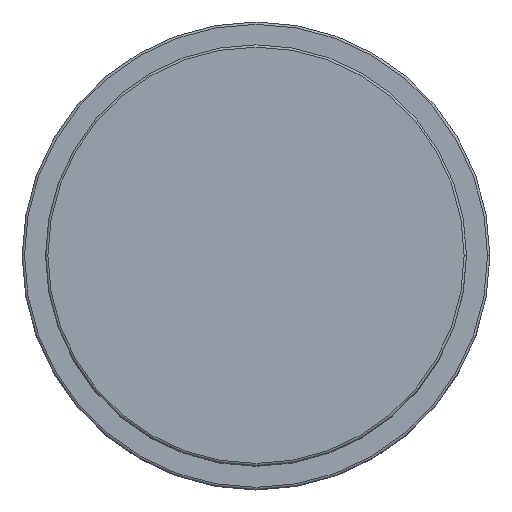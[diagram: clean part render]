
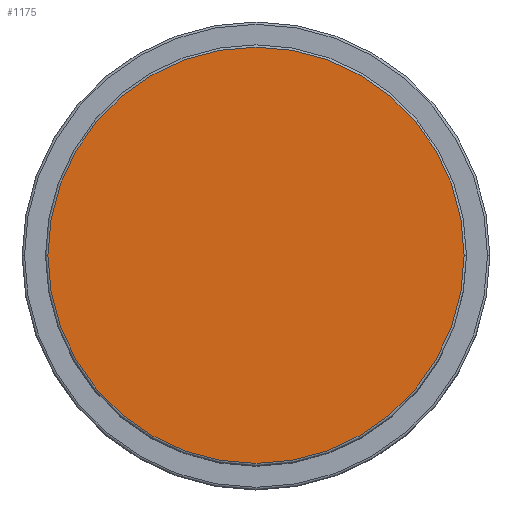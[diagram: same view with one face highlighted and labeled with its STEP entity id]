
A CAD part, top view. The second image highlights one B-rep face of the part: STEP entity #1175.
In plain terms, the highlighted planar face has unit normal (0, 0, 1).
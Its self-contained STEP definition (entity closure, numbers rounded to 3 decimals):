
#51 = DIRECTION ( 'NONE',  ( 0., 0., 1. ) ) ;
#533 = CARTESIAN_POINT ( 'NONE',  ( -44.5, 0., 87. ) ) ;
#696 = DIRECTION ( 'NONE',  ( 0., 0., 1. ) ) ;
#745 = VERTEX_POINT ( 'NONE', #533 ) ;
#1175 = ADVANCED_FACE ( 'NONE', ( #1646 ), #3408, .T. ) ;
#1278 = DIRECTION ( 'NONE',  ( 1., 0., 0. ) ) ;
#1378 = CARTESIAN_POINT ( 'NONE',  ( 44.5, 0., 87. ) ) ;
#1646 = FACE_OUTER_BOUND ( 'NONE', #2012, .T. ) ;
#1660 = DIRECTION ( 'NONE',  ( 1., 0., 0. ) ) ;
#1671 = CARTESIAN_POINT ( 'NONE',  ( 0., 0., 87. ) ) ;
#2012 = EDGE_LOOP ( 'NONE', ( #3977, #3522 ) ) ;
#2384 = CIRCLE ( 'NONE', #4128, 44.5 ) ;
#2464 = EDGE_CURVE ( 'NONE', #745, #2806, #2384, .T. ) ;
#2806 = VERTEX_POINT ( 'NONE', #1378 ) ;
#2843 = DIRECTION ( 'NONE',  ( 0., 0., 1. ) ) ;
#3408 = PLANE ( 'NONE',  #6076 ) ;
#3522 = ORIENTED_EDGE ( 'NONE', *, *, #2464, .T. ) ;
#3890 = CARTESIAN_POINT ( 'NONE',  ( 0., 0., 87. ) ) ;
#3972 = DIRECTION ( 'NONE',  ( 1., 0., 0. ) ) ;
#3977 = ORIENTED_EDGE ( 'NONE', *, *, #6428, .T. ) ;
#3990 = AXIS2_PLACEMENT_3D ( 'NONE', #1671, #2843, #3972 ) ;
#4128 = AXIS2_PLACEMENT_3D ( 'NONE', #5692, #696, #1278 ) ;
#5692 = CARTESIAN_POINT ( 'NONE',  ( 0., 0., 87. ) ) ;
#6076 = AXIS2_PLACEMENT_3D ( 'NONE', #3890, #51, #1660 ) ;
#6292 = CIRCLE ( 'NONE', #3990, 44.5 ) ;
#6428 = EDGE_CURVE ( 'NONE', #2806, #745, #6292, .T. ) ;
